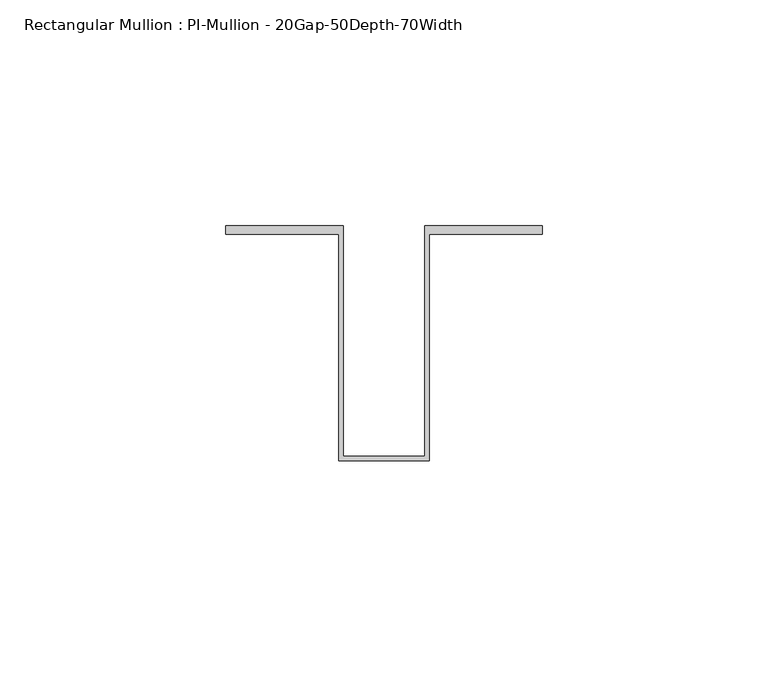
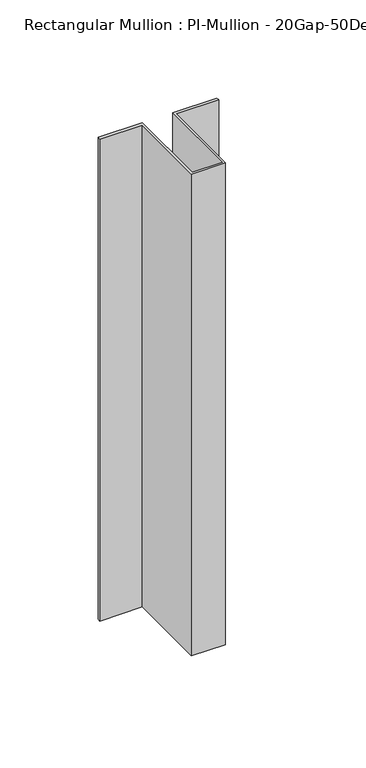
"""IFC4 building model written with IfcOpenShell, lengths in millimetres: member geometry, Rectangular Mullion : PI-Mullion - 20Gap-50Depth-70Width."""

from ifc_helpers import new_model, si_unit, frame, origin, place, context, project, spatial, polyline, outline, extrude, source, transform, mapped, element, save


def rectangular_mullion_pi_mullion_20gap_50depth_70width_36eb7031(model_context):
    return source(origin(), model_context, "Body", "SweptSolid", [
        extrude(outline(polyline([(-10.0, 0.2), (-35.0, 0.2), (-35.0, 2.0), (-9.0, 2.0), (-9.0, -49.0), (9.0, -49.0), (9.0, 2.0), (35.0, 2.0), (35.0, 0.2), (10.0, 0.2), (10.0, -50.0), (-10.0, -50.0), (-10.0, 0.2)])), frame((0.0, 0.0, -300.0), z_axis=(0.0, 0.0, 1.0), x_axis=(1.0, 0.0, 0.0)), (0.0, 0.0, 1.0), 300.0),
    ])


if __name__ == "__main__":
    model = new_model("IFC4")
    model_context = context("Model", 3, world=origin())
    ifc_project = project(units=[si_unit("LENGTHUNIT", "METRE", prefix="MILLI")], contexts=[model_context])
    site = spatial("IfcSite", under=ifc_project)
    building = spatial("IfcBuilding", under=site)
    placement = place(None, origin())
    rectangular_mullion_pi_mullion_20gap_50depth_70width_shape = rectangular_mullion_pi_mullion_20gap_50depth_70width_36eb7031(model_context)
    element("IfcMember", 1, ObjectType="Rectangular Mullion : PI-Mullion - 20Gap-50Depth-70Width", at=placement, inside=building, context=model_context, shape_type="MappedRepresentation", body=[
        mapped(rectangular_mullion_pi_mullion_20gap_50depth_70width_shape, transform((0.0, 0.0, 0.0), x_axis=(1.0, 0.0, 0.0), y_axis=(0.0, 1.0, 0.0), z_axis=(0.0, 0.0, 1.0))),
    ])
    save(model, "model.ifc")
